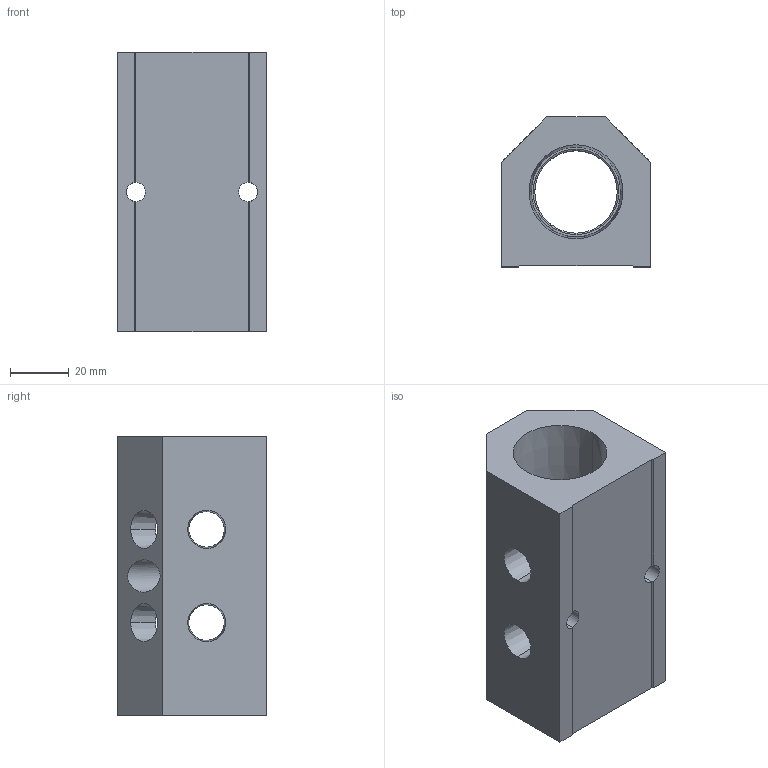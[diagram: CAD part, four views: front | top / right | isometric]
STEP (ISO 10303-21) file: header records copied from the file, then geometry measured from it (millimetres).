
FILE_DESCRIPTION (( 'STEP AP214' ), '1' );
FILE_NAME ('ALM2ABCDE-N4N16-95R.STEP', '2023-11-02T06:44:16', ( '' ), ( '' ), 'SwSTEP 2.0', 'SolidWorks 2020', '' );
FILE_SCHEMA (( 'AUTOMOTIVE_DESIGN' ));
Length unit declared in the file: millimetre
Products named in the file (1): ALM2ABCDE-N4N16-95R
Bounding box: 50.8 x 50.8 x 95 mm (x, y, z)
Volume: 136487.8 mm3; surface area: 33772.8 mm2
Topology: 1 solids, 1 shells, 332 faces, 882 edges, 584 vertices
Faces by surface type: plane 227, bspline 63, cone 28, cylinder 14
Entity records: 18290 total; most frequent: CARTESIAN_POINT 7256, ORIENTED_EDGE 1764, DIRECTION 1312, EDGE_CURVE 882, LINE 668, VECTOR 668, VERTEX_POINT 584, EDGE_LOOP 390
